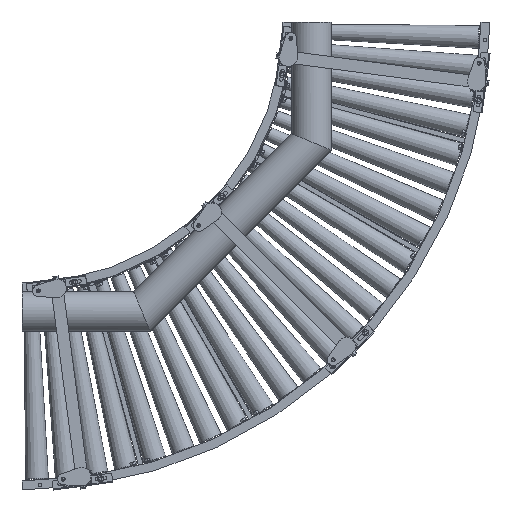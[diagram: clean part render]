
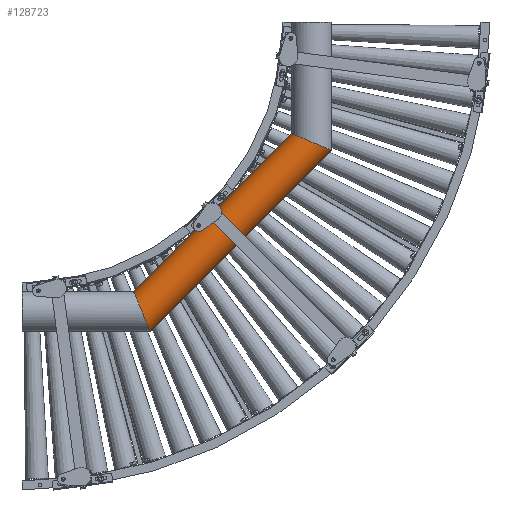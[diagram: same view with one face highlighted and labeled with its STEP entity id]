
A CAD part, front view. The second image highlights one B-rep face of the part: STEP entity #128723.
In plain terms, the highlighted cylindrical face has radius 67.024 mm (diameter 134.048 mm), a partial arc.
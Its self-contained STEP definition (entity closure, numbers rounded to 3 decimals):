
#11928 = EDGE_CURVE ( 'NONE', #59470, #99801, #51450, .T. ) ;
#12000 = CARTESIAN_POINT ( 'NONE',  ( 372.802, -166.5, -900. ) ) ;
#12342 = CARTESIAN_POINT ( 'NONE',  ( 372.802, -166.5, -900. ) ) ;
#16471 = AXIS2_PLACEMENT_3D ( 'NONE', #109775, #26593, #168707 ) ;
#24803 = VECTOR ( 'NONE', #74765, 1000. ) ;
#26593 = DIRECTION ( 'NONE',  ( -0.707, 0., -0.707 ) ) ;
#37052 = CARTESIAN_POINT ( 'NONE',  ( 427.727, -166.5, -1032.6 ) ) ;
#51450 = LINE ( 'NONE', #118389, #24803 ) ;
#55629 = CARTESIAN_POINT ( 'NONE',  ( 900., -166.5, -372.802 ) ) ;
#56171 = ORIENTED_EDGE ( 'NONE', *, *, #145289, .T. ) ;
#57289 = DIRECTION ( 'NONE',  ( -0.707, 0., -0.707 ) ) ;
#59470 = VERTEX_POINT ( 'NONE', #124534 ) ;
#68353 = CARTESIAN_POINT ( 'NONE',  ( 939.043, -166.5, -333.759 ) ) ;
#73568 = ORIENTED_EDGE ( 'NONE', *, *, #94304, .T. ) ;
#74765 = DIRECTION ( 'NONE',  ( -0.707, 0., -0.707 ) ) ;
#75366 = VECTOR ( 'NONE', #57289, 1000. ) ;
#78580 = CARTESIAN_POINT ( 'NONE',  ( 900., -166.5, -372.802 ) ) ;
#83688 = EDGE_LOOP ( 'NONE', ( #164653, #56171, #73568, #141824 ) ) ;
#87422 =( BOUNDED_CURVE ( )  B_SPLINE_CURVE ( 3, ( #149454, #135871, #136467, #78580 ),
 .UNSPECIFIED., .F., .F. ) 
 B_SPLINE_CURVE_WITH_KNOTS ( ( 4, 4 ),
 ( 0.147, 2.994 ),
 .UNSPECIFIED. ) 
 CURVE ( )  GEOMETRIC_REPRESENTATION_ITEM ( )  RATIONAL_B_SPLINE_CURVE ( ( 1., 0.431, 0.431, 1. ) ) 
 REPRESENTATION_ITEM ( '' )  );
#89360 = EDGE_CURVE ( 'NONE', #99801, #140802, #94456, .T. ) ;
#91273 = VERTEX_POINT ( 'NONE', #55629 ) ;
#94304 = EDGE_CURVE ( 'NONE', #91273, #140802, #139825, .T. ) ;
#94456 =( BOUNDED_CURVE ( )  B_SPLINE_CURVE ( 3, ( #96642, #95431, #182916, #12342 ),
 .UNSPECIFIED., .F., .F. ) 
 B_SPLINE_CURVE_WITH_KNOTS ( ( 4, 4 ),
 ( 0.147, 2.994 ),
 .UNSPECIFIED. ) 
 CURVE ( )  GEOMETRIC_REPRESENTATION_ITEM ( )  RATIONAL_B_SPLINE_CURVE ( ( 1., 0.431, 0.431, 1. ) ) 
 REPRESENTATION_ITEM ( '' )  );
#95431 = CARTESIAN_POINT ( 'NONE',  ( 421.501, -267.933, -1017.57 ) ) ;
#96642 = CARTESIAN_POINT ( 'NONE',  ( 427.727, -166.5, -1032.6 ) ) ;
#99416 = CYLINDRICAL_SURFACE ( 'NONE', #16471, 67.024 ) ;
#99801 = VERTEX_POINT ( 'NONE', #37052 ) ;
#109775 = CARTESIAN_POINT ( 'NONE',  ( 985.924, -156.676, -380.64 ) ) ;
#118389 = CARTESIAN_POINT ( 'NONE',  ( 1032.805, -166.5, -427.522 ) ) ;
#124534 = CARTESIAN_POINT ( 'NONE',  ( 1032.6, -166.5, -427.727 ) ) ;
#128723 = ADVANCED_FACE ( 'NONE', ( #177019 ), #99416, .T. ) ;
#135871 = CARTESIAN_POINT ( 'NONE',  ( 1017.57, -267.933, -421.501 ) ) ;
#136467 = CARTESIAN_POINT ( 'NONE',  ( 915.03, -267.933, -379.027 ) ) ;
#139825 = LINE ( 'NONE', #68353, #75366 ) ;
#140802 = VERTEX_POINT ( 'NONE', #12000 ) ;
#141824 = ORIENTED_EDGE ( 'NONE', *, *, #89360, .F. ) ;
#145289 = EDGE_CURVE ( 'NONE', #59470, #91273, #87422, .T. ) ;
#149454 = CARTESIAN_POINT ( 'NONE',  ( 1032.6, -166.5, -427.727 ) ) ;
#164653 = ORIENTED_EDGE ( 'NONE', *, *, #11928, .F. ) ;
#168707 = DIRECTION ( 'NONE',  ( -0.707, 0., 0.707 ) ) ;
#177019 = FACE_OUTER_BOUND ( 'NONE', #83688, .T. ) ;
#182916 = CARTESIAN_POINT ( 'NONE',  ( 379.027, -267.933, -915.03 ) ) ;
